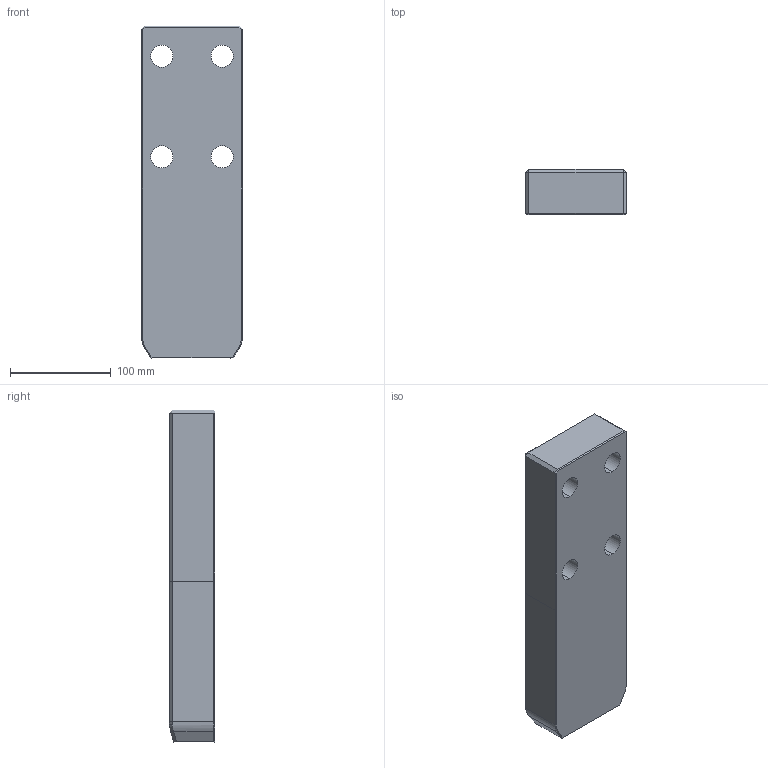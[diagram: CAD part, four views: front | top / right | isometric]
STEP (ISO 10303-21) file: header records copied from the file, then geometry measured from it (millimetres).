
FILE_DESCRIPTION((''),'2;1');
FILE_NAME('','2010-09-08T12:53:50+09:00',('misumi'),(''),'M/STEP i/f 1R2-14','CADmeister v5.1','');
FILE_SCHEMA(('AUTOMOTIVE_DESIGN'));
Length unit declared in the file: millimetre
Products named in the file (1): OGP100-330
Bounding box: 100 x 45 x 330 mm (x, y, z)
Volume: 1400230.1 mm3; surface area: 112044 mm2
Topology: 1 solids, 1 shells, 53 faces, 128 edges, 78 vertices
Faces by surface type: plane 32, cylinder 13, bspline 6, cone 2
Entity records: 1903 total; most frequent: CARTESIAN_POINT 598, ORIENTED_EDGE 248, DIRECTION 234, EDGE_CURVE 124, LINE 82, VECTOR 82, AXIS2_PLACEMENT_3D 76, VERTEX_POINT 74
